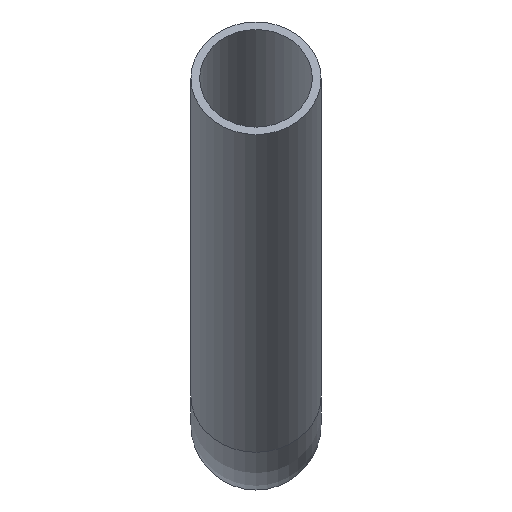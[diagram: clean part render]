
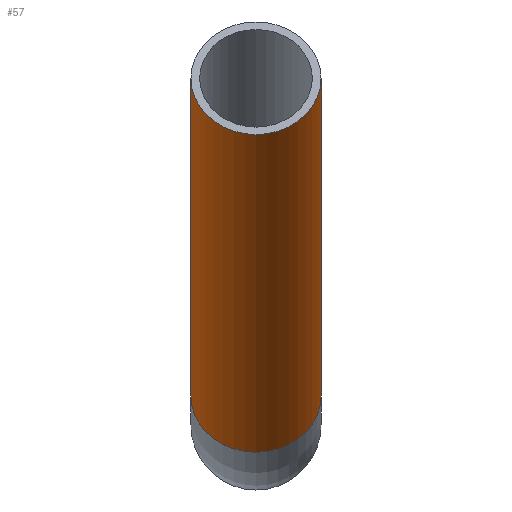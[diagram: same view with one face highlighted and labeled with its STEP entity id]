
A CAD part, front view. The second image highlights one B-rep face of the part: STEP entity #57.
In plain terms, the highlighted cylindrical face has radius 7.5 mm (diameter 15 mm), a full revolution.
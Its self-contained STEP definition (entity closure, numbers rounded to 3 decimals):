
#57=ADVANCED_FACE('',(#97,#99),#101,.T.);
#97=FACE_OUTER_BOUND('',#98,.T.);
#98=EDGE_LOOP('',(#141));
#99=FACE_OUTER_BOUND('',#100,.T.);
#100=EDGE_LOOP('',(#142));
#101=CYLINDRICAL_SURFACE('',#102,7.5);
#102=AXIS2_PLACEMENT_3D('',#103,#104,#105);
#103=CARTESIAN_POINT('',(0.,-5.801,3.349));
#104=DIRECTION('',(0.,-0.866,0.5));
#105=DIRECTION('',(-1.,0.,0.));
#141=ORIENTED_EDGE('',*,*,#153,.T.);
#142=ORIENTED_EDGE('',*,*,#155,.F.);
#153=EDGE_CURVE('',#165,#165,#166,.T.);
#155=EDGE_CURVE('',#169,#169,#170,.T.);
#165=VERTEX_POINT('',#193);
#166=CIRCLE('',#194,7.5);
#169=VERTEX_POINT('',#203);
#170=CIRCLE('',#204,7.5);
#193=CARTESIAN_POINT('',(-7.5,-5.801,3.349));
#194=AXIS2_PLACEMENT_3D('',#195,#196,#197);
#195=CARTESIAN_POINT('',(0.,-5.801,3.349));
#196=DIRECTION('',(0.,-0.866,0.5));
#197=DIRECTION('',(-1.,0.,0.));
#203=CARTESIAN_POINT('',(-7.5,-69.282,40.));
#204=AXIS2_PLACEMENT_3D('',#205,#206,#207);
#205=CARTESIAN_POINT('',(0.,-69.282,40.));
#206=DIRECTION('',(0.,-0.866,0.5));
#207=DIRECTION('',(-1.,0.,0.));
